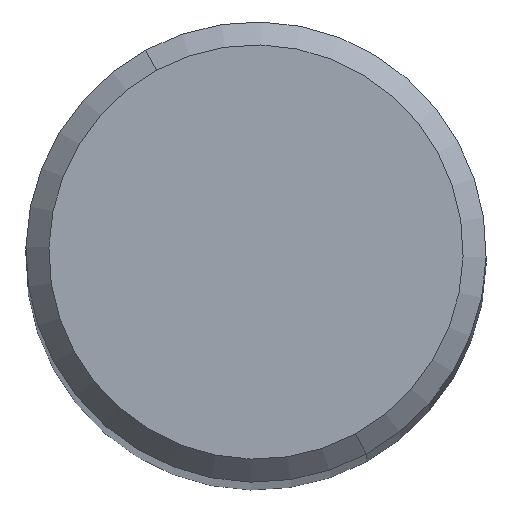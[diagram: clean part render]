
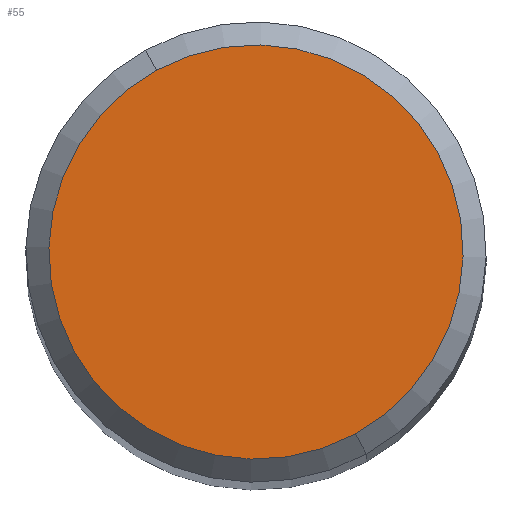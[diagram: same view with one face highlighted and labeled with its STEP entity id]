
A CAD part, top view. The second image highlights one B-rep face of the part: STEP entity #55.
In plain terms, the highlighted planar face has unit normal (0, 0, 1).
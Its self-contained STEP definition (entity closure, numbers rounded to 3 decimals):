
#35=AXIS2_PLACEMENT_3D('Plane Axis2P3D',#32,#33,#34) ;
#39=AXIS2_PLACEMENT_3D('Circle Axis2P3D',#37,#38,$) ;
#48=AXIS2_PLACEMENT_3D('Circle Axis2P3D',#46,#47,$) ;
#32=CARTESIAN_POINT('Axis2P3D Location',(0.,1.35,38.)) ;
#37=CARTESIAN_POINT('Axis2P3D Location',(0.,0.,38.)) ;
#41=CARTESIAN_POINT('Vertex',(-0.647,1.185,38.)) ;
#43=CARTESIAN_POINT('Vertex',(0.647,-1.185,38.)) ;
#46=CARTESIAN_POINT('Axis2P3D Location',(0.,0.,38.)) ;
#33=DIRECTION('Axis2P3D Direction',(0.,0.,1.)) ;
#34=DIRECTION('Axis2P3D XDirection',(-1.,0.,0.)) ;
#38=DIRECTION('Axis2P3D Direction',(0.,0.,1.)) ;
#47=DIRECTION('Axis2P3D Direction',(0.,0.,1.)) ;
#52=ORIENTED_EDGE('',*,*,#45,.T.) ;
#53=ORIENTED_EDGE('',*,*,#50,.T.) ;
#55=ADVANCED_FACE('NOCUT',(#54),#36,.T.) ;
#40=CIRCLE('generated circle',#39,1.35) ;
#49=CIRCLE('generated circle',#48,1.35) ;
#45=EDGE_CURVE('',#42,#44,#40,.T.) ;
#50=EDGE_CURVE('',#44,#42,#49,.T.) ;
#51=EDGE_LOOP('',(#52,#53)) ;
#54=FACE_OUTER_BOUND('',#51,.T.) ;
#36=PLANE('',#35) ;
#42=VERTEX_POINT('',#41) ;
#44=VERTEX_POINT('',#43) ;
